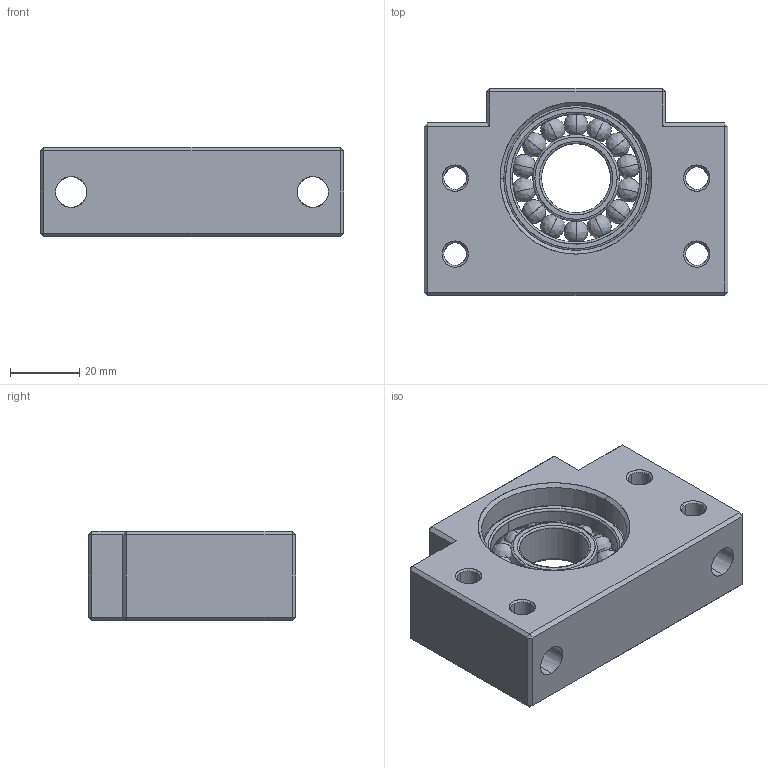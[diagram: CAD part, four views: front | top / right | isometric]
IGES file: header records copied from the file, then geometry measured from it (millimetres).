
Start section: SolidWorks IGES file using analytic representation for surfaces
Global section: file name: Z:\Accessories\_GC_!!!\SYK\Support unit\BF\BF20.IGS; native system: SolidWorks 2015; preprocessor: SolidWorks 2015; author: User; date: 170504.151153; units: millimetre
Bounding box: 88 x 60 x 26 mm (x, y, z)
Surface area: 28964.4 mm2 (no closed solid volume)
Topology: 0 solids, 0 shells, 162 faces, 2252 edges, 2198 vertices
Faces by surface type: bspline 100, revolution 62
